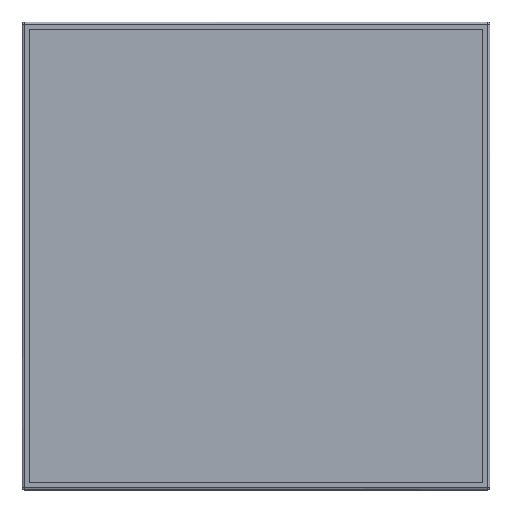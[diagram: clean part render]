
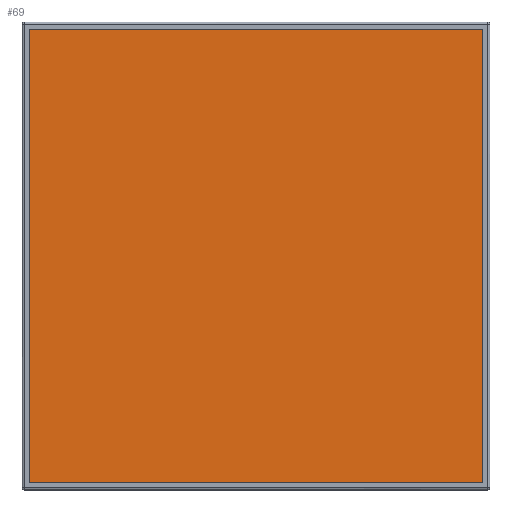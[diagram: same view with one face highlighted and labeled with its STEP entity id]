
A CAD part, top view. The second image highlights one B-rep face of the part: STEP entity #69.
In plain terms, the highlighted planar face has unit normal (0, 0, 1).
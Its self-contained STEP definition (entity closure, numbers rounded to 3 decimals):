
#69=ADVANCED_FACE('',(#107),#505,.T.);
#107=FACE_OUTER_BOUND('',#145,.T.);
#145=EDGE_LOOP('',(#200,#201,#202,#203));
#200=ORIENTED_EDGE('',*,*,#334,.T.);
#201=ORIENTED_EDGE('',*,*,#338,.T.);
#202=ORIENTED_EDGE('',*,*,#341,.T.);
#203=ORIENTED_EDGE('',*,*,#343,.T.);
#334=EDGE_CURVE('',#463,#462,#410,.T.);
#338=EDGE_CURVE('',#462,#465,#414,.T.);
#341=EDGE_CURVE('',#465,#467,#417,.T.);
#343=EDGE_CURVE('',#467,#463,#419,.T.);
#410=B_SPLINE_CURVE_WITH_KNOTS('',1,(#606,#607),.UNSPECIFIED.,.F.,.F.,(2,
2),(0.,580.),.UNSPECIFIED.);
#414=B_SPLINE_CURVE_WITH_KNOTS('',1,(#614,#615),.UNSPECIFIED.,.F.,.F.,(2,
2),(580.,1160.),.UNSPECIFIED.);
#417=B_SPLINE_CURVE_WITH_KNOTS('',1,(#620,#621),.UNSPECIFIED.,.F.,.F.,(2,
2),(1160.,1740.),.UNSPECIFIED.);
#419=B_SPLINE_CURVE_WITH_KNOTS('',1,(#624,#625),.UNSPECIFIED.,.F.,.F.,(2,
2),(1740.,2320.),.UNSPECIFIED.);
#462=VERTEX_POINT('',#596);
#463=VERTEX_POINT('',#597);
#465=VERTEX_POINT('',#599);
#467=VERTEX_POINT('',#601);
#505=PLANE('',#543);
#543=AXIS2_PLACEMENT_3D('',#593,#560,$);
#560=DIRECTION('',(0.,0.,1.));
#593=CARTESIAN_POINT('',(-290.,-290.,29.9));
#596=CARTESIAN_POINT('',(290.,-290.,29.9));
#597=CARTESIAN_POINT('',(-290.,-290.,29.9));
#599=CARTESIAN_POINT('',(290.,290.,29.9));
#601=CARTESIAN_POINT('',(-290.,290.,29.9));
#606=CARTESIAN_POINT('',(-290.,-290.,29.9));
#607=CARTESIAN_POINT('',(290.,-290.,29.9));
#614=CARTESIAN_POINT('',(290.,-290.,29.9));
#615=CARTESIAN_POINT('',(290.,290.,29.9));
#620=CARTESIAN_POINT('',(290.,290.,29.9));
#621=CARTESIAN_POINT('',(-290.,290.,29.9));
#624=CARTESIAN_POINT('',(-290.,290.,29.9));
#625=CARTESIAN_POINT('',(-290.,-290.,29.9));
